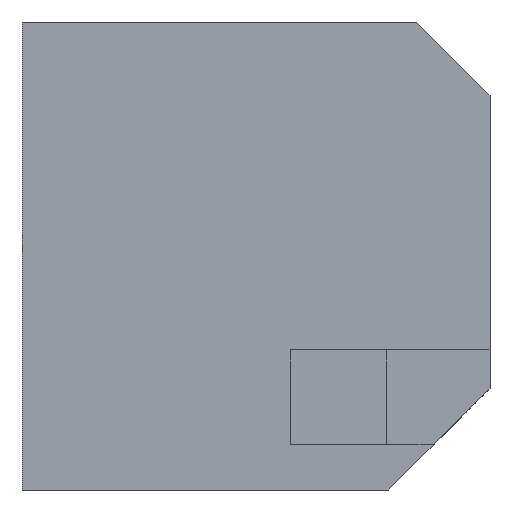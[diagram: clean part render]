
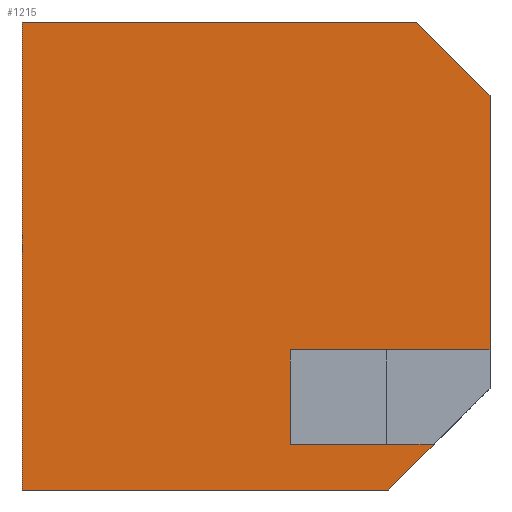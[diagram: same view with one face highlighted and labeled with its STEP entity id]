
A CAD part, left-side view. The second image highlights one B-rep face of the part: STEP entity #1215.
In plain terms, the highlighted planar face has unit normal (-1, 0, 0).
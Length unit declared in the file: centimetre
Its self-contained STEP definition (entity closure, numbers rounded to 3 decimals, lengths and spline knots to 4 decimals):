
#35 = VECTOR ( 'NONE', #624, 100. ) ;
#46 = EDGE_CURVE ( 'NONE', #600, #1395, #115, .T. ) ;
#88 = LINE ( 'NONE', #430, #1054 ) ;
#110 = VECTOR ( 'NONE', #311, 100. ) ;
#115 = LINE ( 'NONE', #543, #640 ) ;
#218 = CARTESIAN_POINT ( 'NONE',  ( 0., 427.0845, 299.1658 ) ) ;
#263 = ORIENTED_EDGE ( 'NONE', *, *, #669, .F. ) ;
#273 = EDGE_CURVE ( 'NONE', #1042, #1395, #937, .T. ) ;
#299 = VERTEX_POINT ( 'NONE', #611 ) ;
#311 = DIRECTION ( 'NONE',  ( 0., -1., 0. ) ) ;
#315 = LINE ( 'NONE', #628, #795 ) ;
#332 = LINE ( 'NONE', #638, #110 ) ;
#342 = CARTESIAN_POINT ( 'NONE',  ( 0., 1000., 1000. ) ) ;
#367 = PLANE ( 'NONE',  #676 ) ;
#369 = CARTESIAN_POINT ( 'NONE',  ( 0., 0., 217.5672 ) ) ;
#370 = VECTOR ( 'NONE', #1366, 100. ) ;
#408 = CARTESIAN_POINT ( 'NONE',  ( 0., 156.3931, 1000. ) ) ;
#430 = CARTESIAN_POINT ( 'NONE',  ( 0., 1000., 0. ) ) ;
#440 = DIRECTION ( 'NONE',  ( 0., 0., -1. ) ) ;
#463 = VECTOR ( 'NONE', #1034, 100. ) ;
#497 = CARTESIAN_POINT ( 'NONE',  ( 0., 427.0845, 98.1194 ) ) ;
#508 = ORIENTED_EDGE ( 'NONE', *, *, #46, .F. ) ;
#512 = EDGE_CURVE ( 'NONE', #939, #1087, #917, .T. ) ;
#531 = DIRECTION ( 'NONE',  ( 0., -1., 0. ) ) ;
#543 = CARTESIAN_POINT ( 'NONE',  ( 0., 1000., 1000. ) ) ;
#564 = EDGE_CURVE ( 'NONE', #600, #1008, #1361, .T. ) ;
#576 = DIRECTION ( 'NONE',  ( 0., 0., -1. ) ) ;
#600 = VERTEX_POINT ( 'NONE', #672 ) ;
#611 = CARTESIAN_POINT ( 'NONE',  ( 0., 0., 299.1658 ) ) ;
#624 = DIRECTION ( 'NONE',  ( 0., 0.707, 0.707 ) ) ;
#628 = CARTESIAN_POINT ( 'NONE',  ( 0., 0., 1000. ) ) ;
#630 = EDGE_CURVE ( 'NONE', #659, #299, #332, .T. ) ;
#638 = CARTESIAN_POINT ( 'NONE',  ( 0., 427.0845, 299.1658 ) ) ;
#640 = VECTOR ( 'NONE', #1432, 100. ) ;
#659 = VERTEX_POINT ( 'NONE', #218 ) ;
#669 = EDGE_CURVE ( 'NONE', #659, #939, #1101, .T. ) ;
#672 = CARTESIAN_POINT ( 'NONE',  ( 0., 1000., 1000. ) ) ;
#674 = EDGE_LOOP ( 'NONE', ( #263, #1429, #1202, #1307, #508, #1316, #985, #1165, #1189 ) ) ;
#676 = AXIS2_PLACEMENT_3D ( 'NONE', #342, #689, #910 ) ;
#689 = DIRECTION ( 'NONE',  ( 1., 0., 0. ) ) ;
#736 = VECTOR ( 'NONE', #576, 100. ) ;
#762 = CARTESIAN_POINT ( 'NONE',  ( 0., 217.5672, 0. ) ) ;
#795 = VECTOR ( 'NONE', #1093, 100. ) ;
#802 = CARTESIAN_POINT ( 'NONE',  ( 0., 1000., 1000. ) ) ;
#829 = EDGE_CURVE ( 'NONE', #1166, #1087, #1247, .T. ) ;
#877 = CARTESIAN_POINT ( 'NONE',  ( 0., 0., 843.6069 ) ) ;
#910 = DIRECTION ( 'NONE',  ( 0., 0., -1. ) ) ;
#917 = LINE ( 'NONE', #1229, #370 ) ;
#937 = LINE ( 'NONE', #408, #35 ) ;
#939 = VERTEX_POINT ( 'NONE', #497 ) ;
#980 = VECTOR ( 'NONE', #440, 100. ) ;
#985 = ORIENTED_EDGE ( 'NONE', *, *, #1080, .T. ) ;
#1008 = VERTEX_POINT ( 'NONE', #1067 ) ;
#1034 = DIRECTION ( 'NONE',  ( 0., -0.707, 0.707 ) ) ;
#1042 = VERTEX_POINT ( 'NONE', #877 ) ;
#1050 = EDGE_CURVE ( 'NONE', #1042, #299, #315, .T. ) ;
#1054 = VECTOR ( 'NONE', #531, 100. ) ;
#1067 = CARTESIAN_POINT ( 'NONE',  ( 0., 1000., 0. ) ) ;
#1080 = EDGE_CURVE ( 'NONE', #1008, #1166, #88, .T. ) ;
#1087 = VERTEX_POINT ( 'NONE', #1315 ) ;
#1093 = DIRECTION ( 'NONE',  ( 0., 0., -1. ) ) ;
#1101 = LINE ( 'NONE', #1438, #980 ) ;
#1165 = ORIENTED_EDGE ( 'NONE', *, *, #829, .T. ) ;
#1166 = VERTEX_POINT ( 'NONE', #762 ) ;
#1189 = ORIENTED_EDGE ( 'NONE', *, *, #512, .F. ) ;
#1202 = ORIENTED_EDGE ( 'NONE', *, *, #1050, .F. ) ;
#1215 = ADVANCED_FACE ( 'NONE', ( #1337 ), #367, .F. ) ;
#1229 = CARTESIAN_POINT ( 'NONE',  ( 0., 427.0845, 98.1194 ) ) ;
#1247 = LINE ( 'NONE', #369, #463 ) ;
#1307 = ORIENTED_EDGE ( 'NONE', *, *, #273, .T. ) ;
#1315 = CARTESIAN_POINT ( 'NONE',  ( 0., 119.4478, 98.1194 ) ) ;
#1316 = ORIENTED_EDGE ( 'NONE', *, *, #564, .T. ) ;
#1337 = FACE_OUTER_BOUND ( 'NONE', #674, .T. ) ;
#1349 = CARTESIAN_POINT ( 'NONE',  ( 0., 156.3931, 1000. ) ) ;
#1361 = LINE ( 'NONE', #802, #736 ) ;
#1366 = DIRECTION ( 'NONE',  ( 0., -1., 0. ) ) ;
#1395 = VERTEX_POINT ( 'NONE', #1349 ) ;
#1429 = ORIENTED_EDGE ( 'NONE', *, *, #630, .T. ) ;
#1432 = DIRECTION ( 'NONE',  ( 0., -1., 0. ) ) ;
#1438 = CARTESIAN_POINT ( 'NONE',  ( 0., 427.0845, 98.1194 ) ) ;
